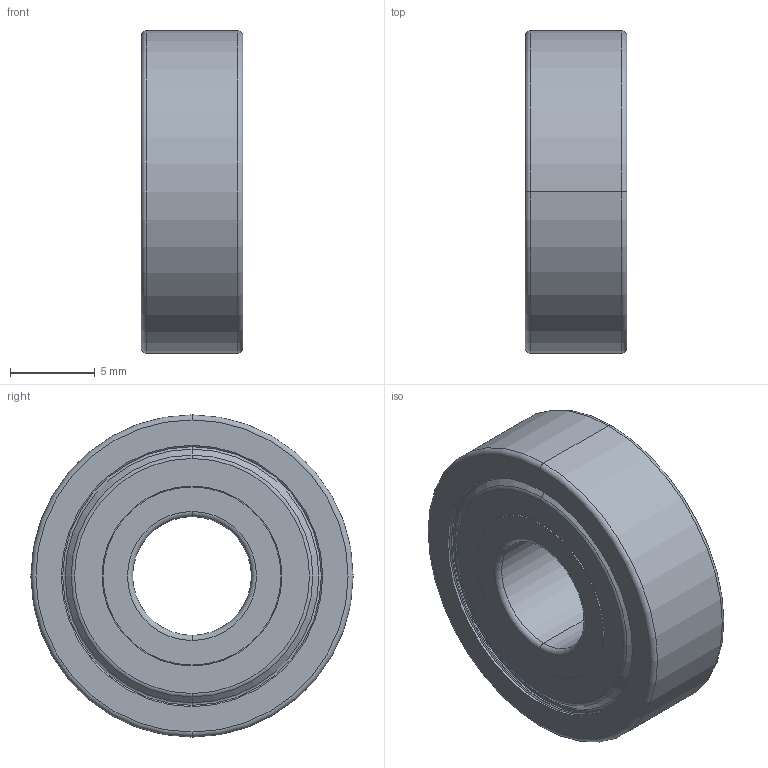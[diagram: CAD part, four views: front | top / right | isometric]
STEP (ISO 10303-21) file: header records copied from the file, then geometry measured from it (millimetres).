
FILE_DESCRIPTION((''),'2;1');
FILE_NAME('607ZZ_EA024','2025-12-19T16:26:02',('qinghui.yi'),(''),'CREO PARAMETRIC BY PTC INC, 2019164','CREO PARAMETRIC BY PTC INC, 2019164','');
FILE_SCHEMA(('CONFIG_CONTROL_DESIGN','SHAPE_APPEARANCE_LAYERS_GROUPS'));
Length unit declared in the file: millimetre
Products named in the file (1): 607ZZ_EA024
Bounding box: 6 x 19 x 19 mm (x, y, z)
Volume: 890.6 mm3; surface area: 1735.6 mm2
Topology: 2 solids, 2 shells, 88 faces, 180 edges, 106 vertices
Faces by surface type: torus 34, cylinder 24, cone 16, plane 14
Entity records: 2595 total; most frequent: DIRECTION 496, CARTESIAN_POINT 374, ORIENTED_EDGE 360, AXIS2_PLACEMENT_3D 228, COLOUR_RGB 196, EDGE_CURVE 180, CIRCLE 140, VERTEX_POINT 106
